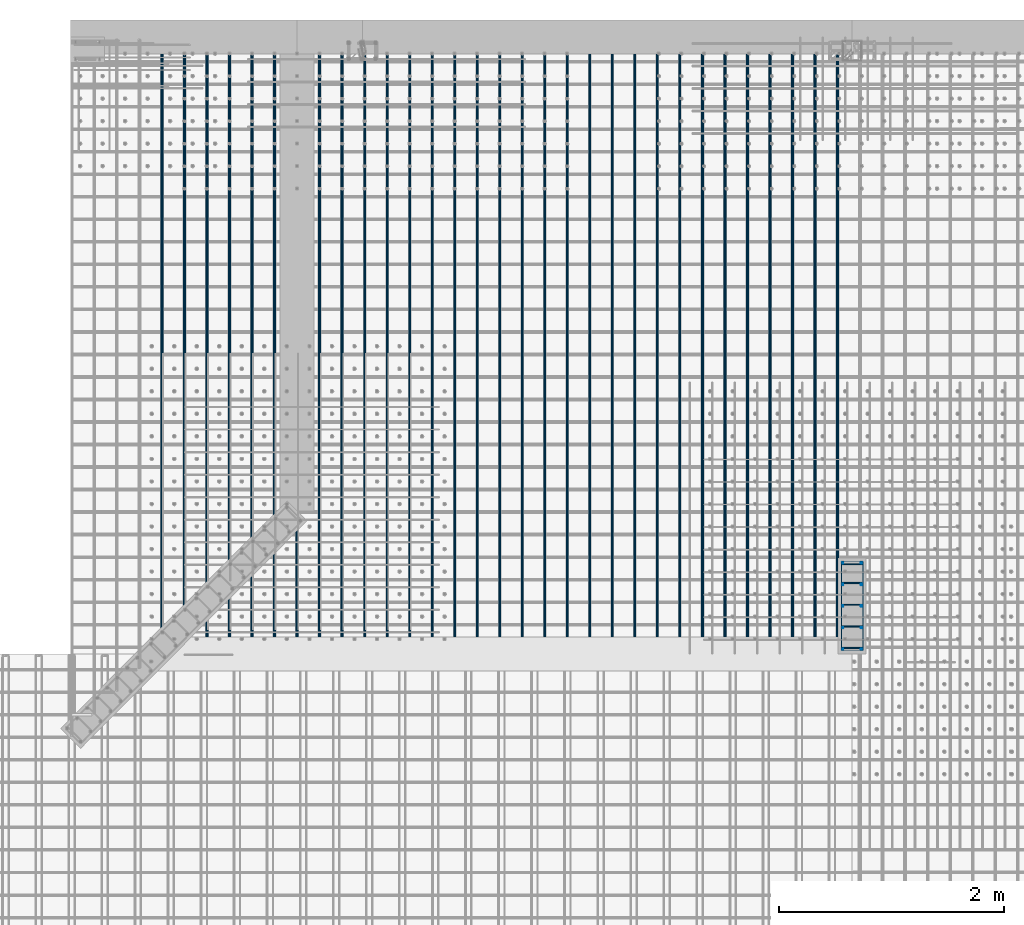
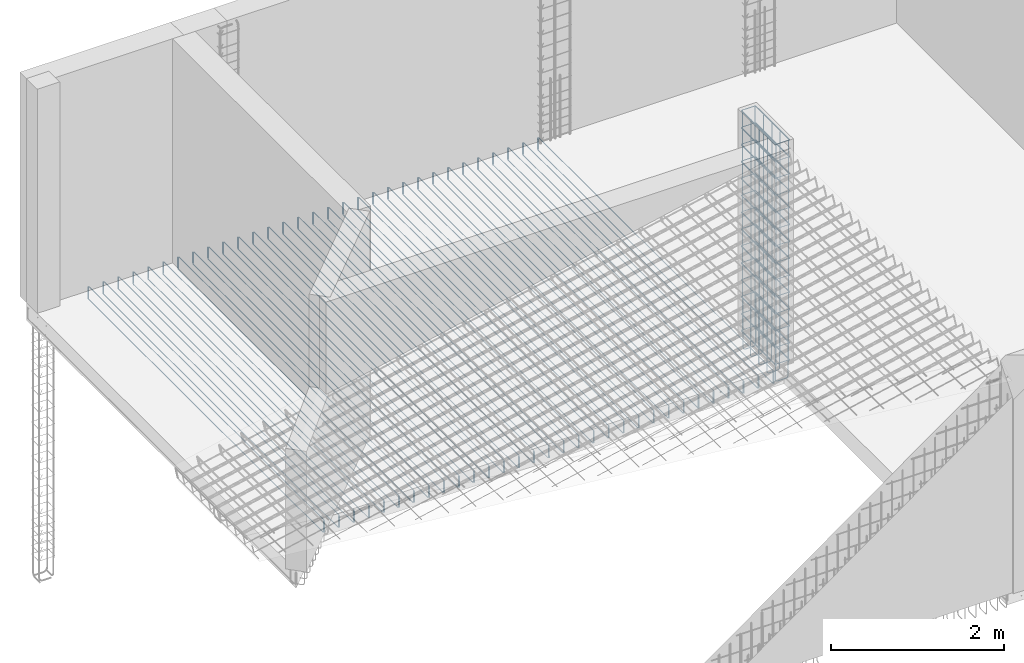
# One storey, part 6 of 17: 5 reinforcing bars.
"""IFC4 building model written with IfcOpenShell, lengths in metres."""

from ifc_helpers import new_model, entity, si_unit, frame, origin_with_axes, place, context, project, spatial, source, transform, mapped, element, save


model = new_model("IFC4")

# Units and contexts
model_context = context("Model", 3, precision=1e-05, world=origin_with_axes())
ifc_project = project(units=[si_unit("LENGTHUNIT", "METRE"), si_unit("AREAUNIT", "SQUARE_METRE"), si_unit("VOLUMEUNIT", "CUBIC_METRE"), si_unit("MASSUNIT", "GRAM", prefix="KILO"), si_unit("TIMEUNIT", "SECOND"), si_unit("PLANEANGLEUNIT", "RADIAN"), si_unit("SOLIDANGLEUNIT", "STERADIAN"), si_unit("THERMODYNAMICTEMPERATUREUNIT", "DEGREE_CELSIUS")], contexts=[model_context])

# Site, building, storey
placement_1 = place(None, origin_with_axes())
site = spatial("IfcSite", under=ifc_project, at=placement_1, Name="Italia", CompositionType="ELEMENT")
building = spatial("IfcBuilding", under=site, at=placement_1, Name="Abitazione", CompositionType="ELEMENT")
storey_placement = place(None, frame((0.0, 0.0, 3.569999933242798), z_axis=(0.0, 0.0, 1.0), x_axis=(1.0, 0.0, 0.0)))
storey = spatial("IfcBuildingStorey", under=building, at=storey_placement, Name="Storey 1", CompositionType="ELEMENT", Elevation=3.569999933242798)

# Reinforcing bars
shared_shape_1 = source(origin_with_axes(), model_context, "Body", "AdvancedSweptSolid", [
    entity("IfcSweptDiskSolid", entity("IfcIndexedPolyCurve", entity("IfcCartesianPointList3D", [[8.046, 6.749, 3.57], [8.046, 6.749, 6.705]]), [entity("IfcLineIndex", [1, 2])], False), 0.006),
])
placement_2 = place(placement_1, origin_with_axes())
reinforcing_bar_1_placement = place(placement_2, origin_with_axes())
element("IfcReinforcingBar", 1, at=reinforcing_bar_1_placement, inside=storey, BarLength=3.135, CrossSectionArea=0.0001131, NominalDiameter=0.012, context=model_context, shape_type="MappedRepresentation", body=[
    mapped(shared_shape_1, transform((0.0, -0.576, 0.0), x_axis=(1.0, 0.0, 0.0), y_axis=(0.0, 1.0, 0.0), z_axis=(0.0, 0.0, 1.0), scale=1.0)),
    mapped(shared_shape_1, transform((0.167999, -0.384, 0.0), x_axis=(1.0, 0.0, 0.0), y_axis=(0.0, 1.0, 0.0), z_axis=(0.0, 0.0, 1.0), scale=1.0)),
    mapped(shared_shape_1, transform((0.0, -0.768001, 0.0), x_axis=(1.0, 0.0, 0.0), y_axis=(0.0, 1.0, 0.0), z_axis=(0.0, 0.0, 1.0), scale=1.0)),
    mapped(shared_shape_1, transform((0.167999, -0.576, 0.0), x_axis=(1.0, 0.0, 0.0), y_axis=(0.0, 1.0, 0.0), z_axis=(0.0, 0.0, 1.0), scale=1.0)),
    mapped(shared_shape_1, transform((0.0, 0.0, 0.0), x_axis=(1.0, 0.0, 0.0), y_axis=(0.0, 1.0, 0.0), z_axis=(0.0, 0.0, 1.0), scale=1.0)),
    mapped(shared_shape_1, transform((0.167999, -0.768001, 0.0), x_axis=(1.0, 0.0, 0.0), y_axis=(0.0, 1.0, 0.0), z_axis=(0.0, 0.0, 1.0), scale=1.0)),
    mapped(shared_shape_1, transform((0.0, -0.192, 0.0), x_axis=(1.0, 0.0, 0.0), y_axis=(0.0, 1.0, 0.0), z_axis=(0.0, 0.0, 1.0), scale=1.0)),
    mapped(shared_shape_1, transform((0.167999, 0.0, 0.0), x_axis=(1.0, 0.0, 0.0), y_axis=(0.0, 1.0, 0.0), z_axis=(0.0, 0.0, 1.0), scale=1.0)),
    mapped(shared_shape_1, transform((0.0, -0.384, 0.0), x_axis=(1.0, 0.0, 0.0), y_axis=(0.0, 1.0, 0.0), z_axis=(0.0, 0.0, 1.0), scale=1.0)),
    mapped(shared_shape_1, transform((0.167999, -0.192, 0.0), x_axis=(1.0, 0.0, 0.0), y_axis=(0.0, 1.0, 0.0), z_axis=(0.0, 0.0, 1.0), scale=1.0)),
])
shared_shape_2 = source(origin_with_axes(), model_context, "Body", "AdvancedSweptSolid", [
    entity("IfcSweptDiskSolid", entity("IfcIndexedPolyCurve", entity("IfcCartesianPointList3D", [[8.046, 6.737, 4.07], [8.046, 6.737, 3.375], [8.04828, 6.737, 3.36352], [8.05479, 6.737, 3.35379], [8.06452, 6.737, 3.34728], [8.076, 6.737, 3.345], [8.146, 6.737, 3.345]]), [entity("IfcLineIndex", [1, 2]), entity("IfcLineIndex", [2, 3]), entity("IfcLineIndex", [3, 4]), entity("IfcLineIndex", [4, 5]), entity("IfcLineIndex", [5, 6]), entity("IfcLineIndex", [6, 7])], False), 0.006),
])
reinforcing_bar_2_placement = place(placement_2, origin_with_axes())
element("IfcReinforcingBar", 2, at=reinforcing_bar_2_placement, inside=storey, BarLength=0.811821, CrossSectionArea=0.0001131, NominalDiameter=0.012, context=model_context, shape_type="MappedRepresentation", body=[
    mapped(shared_shape_2, transform((0.0, -0.552, 0.0), x_axis=(1.0, 0.0, 0.0), y_axis=(0.0, 1.0, 0.0), z_axis=(0.0, 0.0, 1.0), scale=1.0)),
    mapped(shared_shape_2, transform((16.26, 13.114, 0.0), x_axis=(-1.0, 0.0, 0.0), y_axis=(0.0, -1.0, 0.0), z_axis=(0.0, 0.0, 1.0), scale=1.0)),
    mapped(shared_shape_2, transform((0.0, -0.744, 0.0), x_axis=(1.0, 0.0, 0.0), y_axis=(0.0, 1.0, 0.0), z_axis=(0.0, 0.0, 1.0), scale=1.0)),
    mapped(shared_shape_2, transform((16.26, 12.922, 0.0), x_axis=(-1.0, 0.0, 0.0), y_axis=(0.0, -1.0, 0.0), z_axis=(0.0, 0.0, 1.0), scale=1.0)),
    mapped(shared_shape_2, transform((0.0, 0.0, 0.0), x_axis=(1.0, 0.0, 0.0), y_axis=(0.0, 1.0, 0.0), z_axis=(0.0, 0.0, 1.0), scale=1.0)),
    mapped(shared_shape_2, transform((16.26, 12.73, 0.0), x_axis=(-1.0, 0.0, 0.0), y_axis=(0.0, -1.0, 0.0), z_axis=(0.0, 0.0, 1.0), scale=1.0)),
    mapped(shared_shape_2, transform((0.0, -0.168, 0.0), x_axis=(1.0, 0.0, 0.0), y_axis=(0.0, 1.0, 0.0), z_axis=(0.0, 0.0, 1.0), scale=1.0)),
    mapped(shared_shape_2, transform((16.26, 13.474, 0.0), x_axis=(-1.0, 0.0, 0.0), y_axis=(0.0, -1.0, 0.0), z_axis=(0.0, 0.0, 1.0), scale=1.0)),
    mapped(shared_shape_2, transform((0.0, -0.36, 0.0), x_axis=(1.0, 0.0, 0.0), y_axis=(0.0, 1.0, 0.0), z_axis=(0.0, 0.0, 1.0), scale=1.0)),
    mapped(shared_shape_2, transform((16.26, 13.306, 0.0), x_axis=(-1.0, 0.0, 0.0), y_axis=(0.0, -1.0, 0.0), z_axis=(0.0, 0.0, 1.0), scale=1.0)),
])
shared_shape_3 = source(origin_with_axes(), model_context, "Body", "AdvancedSweptSolid", [
    entity("IfcSweptDiskSolid", entity("IfcIndexedPolyCurve", entity("IfcCartesianPointList3D", [[8.225, 6.76, 3.6], [8.225, 5.97, 3.6]]), [entity("IfcLineIndex", [1, 2])], False), 0.005),
])
reinforcing_bar_3_placement = place(placement_2, origin_with_axes())
element("IfcReinforcingBar", 3, at=reinforcing_bar_3_placement, inside=storey, BarLength=0.79, CrossSectionArea=7.854e-05, NominalDiameter=0.01, context=model_context, shape_type="MappedRepresentation", body=[
    mapped(shared_shape_3, transform((0.0, 0.0, 0.238461), x_axis=(1.0, 0.0, 0.0), y_axis=(0.0, 1.0, 0.0), z_axis=(0.0, 0.0, 1.0), scale=1.0)),
    mapped(shared_shape_3, transform((0.0, 0.0, 0.953846), x_axis=(1.0, 0.0, 0.0), y_axis=(0.0, 1.0, 0.0), z_axis=(0.0, 0.0, 1.0), scale=1.0)),
    mapped(shared_shape_3, transform((0.0, 0.0, 1.43077), x_axis=(1.0, 0.0, 0.0), y_axis=(0.0, 1.0, 0.0), z_axis=(0.0, 0.0, 1.0), scale=1.0)),
    mapped(shared_shape_3, transform((0.0, 0.0, 0.0), x_axis=(1.0, 0.0, 0.0), y_axis=(0.0, 1.0, 0.0), z_axis=(0.0, 0.0, 1.0), scale=1.0)),
    mapped(shared_shape_3, transform((16.26, 12.73, 0.476923), x_axis=(-1.0, 0.0, 0.0), y_axis=(0.0, -1.0, 0.0), z_axis=(0.0, 0.0, 1.0), scale=1.0)),
    mapped(shared_shape_3, transform((16.26, 12.73, 0.0), x_axis=(-1.0, 0.0, 0.0), y_axis=(0.0, -1.0, 0.0), z_axis=(0.0, 0.0, 1.0), scale=1.0)),
    mapped(shared_shape_3, transform((0.0, 0.0, 0.476923), x_axis=(1.0, 0.0, 0.0), y_axis=(0.0, 1.0, 0.0), z_axis=(0.0, 0.0, 1.0), scale=1.0)),
    mapped(shared_shape_3, transform((16.26, 12.73, 0.715384), x_axis=(-1.0, 0.0, 0.0), y_axis=(0.0, -1.0, 0.0), z_axis=(0.0, 0.0, 1.0), scale=1.0)),
    mapped(shared_shape_3, transform((0.0, 0.0, 1.19231), x_axis=(1.0, 0.0, 0.0), y_axis=(0.0, 1.0, 0.0), z_axis=(0.0, 0.0, 1.0), scale=1.0)),
    mapped(shared_shape_3, transform((0.0, 0.0, 1.66923), x_axis=(1.0, 0.0, 0.0), y_axis=(0.0, 1.0, 0.0), z_axis=(0.0, 0.0, 1.0), scale=1.0)),
    mapped(shared_shape_3, transform((16.26, 12.73, 0.238461), x_axis=(-1.0, 0.0, 0.0), y_axis=(0.0, -1.0, 0.0), z_axis=(0.0, 0.0, 1.0), scale=1.0)),
    mapped(shared_shape_3, transform((0.0, 0.0, 0.715384), x_axis=(1.0, 0.0, 0.0), y_axis=(0.0, 1.0, 0.0), z_axis=(0.0, 0.0, 1.0), scale=1.0)),
    mapped(shared_shape_3, transform((16.26, 12.73, 0.953846), x_axis=(-1.0, 0.0, 0.0), y_axis=(0.0, -1.0, 0.0), z_axis=(0.0, 0.0, 1.0), scale=1.0)),
    mapped(shared_shape_3, transform((16.26, 12.73, 1.19231), x_axis=(-1.0, 0.0, 0.0), y_axis=(0.0, -1.0, 0.0), z_axis=(0.0, 0.0, 1.0), scale=1.0)),
    mapped(shared_shape_3, transform((16.26, 12.73, 1.43077), x_axis=(-1.0, 0.0, 0.0), y_axis=(0.0, -1.0, 0.0), z_axis=(0.0, 0.0, 1.0), scale=1.0)),
    mapped(shared_shape_3, transform((16.26, 12.73, 1.66923), x_axis=(-1.0, 0.0, 0.0), y_axis=(0.0, -1.0, 0.0), z_axis=(0.0, 0.0, 1.0), scale=1.0)),
    mapped(shared_shape_3, transform((16.26, 12.73, 1.90769), x_axis=(-1.0, 0.0, 0.0), y_axis=(0.0, -1.0, 0.0), z_axis=(0.0, 0.0, 1.0), scale=1.0)),
    mapped(shared_shape_3, transform((0.0, 0.0, 2.86154), x_axis=(1.0, 0.0, 0.0), y_axis=(0.0, 1.0, 0.0), z_axis=(0.0, 0.0, 1.0), scale=1.0)),
    mapped(shared_shape_3, transform((0.0, 0.0, 1.90769), x_axis=(1.0, 0.0, 0.0), y_axis=(0.0, 1.0, 0.0), z_axis=(0.0, 0.0, 1.0), scale=1.0)),
    mapped(shared_shape_3, transform((16.26, 12.73, 2.14615), x_axis=(-1.0, 0.0, 0.0), y_axis=(0.0, -1.0, 0.0), z_axis=(0.0, 0.0, 1.0), scale=1.0)),
    mapped(shared_shape_3, transform((0.0, 0.0, 2.62308), x_axis=(1.0, 0.0, 0.0), y_axis=(0.0, 1.0, 0.0), z_axis=(0.0, 0.0, 1.0), scale=1.0)),
    mapped(shared_shape_3, transform((0.0, 0.0, 2.38462), x_axis=(1.0, 0.0, 0.0), y_axis=(0.0, 1.0, 0.0), z_axis=(0.0, 0.0, 1.0), scale=1.0)),
    mapped(shared_shape_3, transform((0.0, 0.0, 3.1), x_axis=(1.0, 0.0, 0.0), y_axis=(0.0, 1.0, 0.0), z_axis=(0.0, 0.0, 1.0), scale=1.0)),
    mapped(shared_shape_3, transform((0.0, 0.0, 2.14615), x_axis=(1.0, 0.0, 0.0), y_axis=(0.0, 1.0, 0.0), z_axis=(0.0, 0.0, 1.0), scale=1.0)),
    mapped(shared_shape_3, transform((16.26, 12.73, 2.62308), x_axis=(-1.0, 0.0, 0.0), y_axis=(0.0, -1.0, 0.0), z_axis=(0.0, 0.0, 1.0), scale=1.0)),
    mapped(shared_shape_3, transform((16.26, 12.73, 2.38462), x_axis=(-1.0, 0.0, 0.0), y_axis=(0.0, -1.0, 0.0), z_axis=(0.0, 0.0, 1.0), scale=1.0)),
    mapped(shared_shape_3, transform((16.26, 12.73, 2.86154), x_axis=(-1.0, 0.0, 0.0), y_axis=(0.0, -1.0, 0.0), z_axis=(0.0, 0.0, 1.0), scale=1.0)),
    mapped(shared_shape_3, transform((16.26, 12.73, 3.1), x_axis=(-1.0, 0.0, 0.0), y_axis=(0.0, -1.0, 0.0), z_axis=(0.0, 0.0, 1.0), scale=1.0)),
])
shared_shape_4 = source(origin_with_axes(), model_context, "Body", "AdvancedSweptSolid", [
    entity("IfcSweptDiskSolid", entity("IfcIndexedPolyCurve", entity("IfcCartesianPointList3D", [[8.035, 6.27, 3.61], [8.035, 6.75, 3.61], [8.03576, 6.75383, 3.61], [8.03793, 6.75707, 3.61], [8.04117, 6.75924, 3.61], [8.045, 6.76, 3.61], [8.215, 6.76, 3.61], [8.21883, 6.75924, 3.61], [8.22207, 6.75707, 3.61], [8.22424, 6.75383, 3.61], [8.225, 6.75, 3.61], [8.225, 6.27, 3.61]]), [entity("IfcLineIndex", [1, 2]), entity("IfcLineIndex", [2, 3]), entity("IfcLineIndex", [3, 4]), entity("IfcLineIndex", [4, 5]), entity("IfcLineIndex", [5, 6]), entity("IfcLineIndex", [6, 7]), entity("IfcLineIndex", [7, 8]), entity("IfcLineIndex", [8, 9]), entity("IfcLineIndex", [9, 10]), entity("IfcLineIndex", [10, 11]), entity("IfcLineIndex", [11, 12])], False), 0.005),
])
reinforcing_bar_4_placement = place(placement_2, origin_with_axes())
element("IfcReinforcingBar", 4, at=reinforcing_bar_4_placement, inside=storey, BarLength=1.16122, CrossSectionArea=7.854e-05, NominalDiameter=0.01, context=model_context, shape_type="MappedRepresentation", body=[
    mapped(shared_shape_4, transform((0.0, 0.0, 0.238461), x_axis=(1.0, 0.0, 0.0), y_axis=(0.0, 1.0, 0.0), z_axis=(0.0, 0.0, 1.0), scale=1.0)),
    mapped(shared_shape_4, transform((0.0, 0.0, 0.953846), x_axis=(1.0, 0.0, 0.0), y_axis=(0.0, 1.0, 0.0), z_axis=(0.0, 0.0, 1.0), scale=1.0)),
    mapped(shared_shape_4, transform((0.0, 0.0, 1.43077), x_axis=(1.0, 0.0, 0.0), y_axis=(0.0, 1.0, 0.0), z_axis=(0.0, 0.0, 1.0), scale=1.0)),
    mapped(shared_shape_4, transform((0.0, 0.0, 0.0), x_axis=(1.0, 0.0, 0.0), y_axis=(0.0, 1.0, 0.0), z_axis=(0.0, 0.0, 1.0), scale=1.0)),
    mapped(shared_shape_4, transform((16.26, 12.73, 0.476923), x_axis=(-1.0, 0.0, 0.0), y_axis=(0.0, -1.0, 0.0), z_axis=(0.0, 0.0, 1.0), scale=1.0)),
    mapped(shared_shape_4, transform((16.26, 12.73, 0.0), x_axis=(-1.0, 0.0, 0.0), y_axis=(0.0, -1.0, 0.0), z_axis=(0.0, 0.0, 1.0), scale=1.0)),
    mapped(shared_shape_4, transform((0.0, 0.0, 0.476923), x_axis=(1.0, 0.0, 0.0), y_axis=(0.0, 1.0, 0.0), z_axis=(0.0, 0.0, 1.0), scale=1.0)),
    mapped(shared_shape_4, transform((16.26, 12.73, 0.715385), x_axis=(-1.0, 0.0, 0.0), y_axis=(0.0, -1.0, 0.0), z_axis=(0.0, 0.0, 1.0), scale=1.0)),
    mapped(shared_shape_4, transform((0.0, 0.0, 1.19231), x_axis=(1.0, 0.0, 0.0), y_axis=(0.0, 1.0, 0.0), z_axis=(0.0, 0.0, 1.0), scale=1.0)),
    mapped(shared_shape_4, transform((0.0, 0.0, 1.66923), x_axis=(1.0, 0.0, 0.0), y_axis=(0.0, 1.0, 0.0), z_axis=(0.0, 0.0, 1.0), scale=1.0)),
    mapped(shared_shape_4, transform((16.26, 12.73, 0.238461), x_axis=(-1.0, 0.0, 0.0), y_axis=(0.0, -1.0, 0.0), z_axis=(0.0, 0.0, 1.0), scale=1.0)),
    mapped(shared_shape_4, transform((0.0, 0.0, 0.715385), x_axis=(1.0, 0.0, 0.0), y_axis=(0.0, 1.0, 0.0), z_axis=(0.0, 0.0, 1.0), scale=1.0)),
    mapped(shared_shape_4, transform((16.26, 12.73, 0.953846), x_axis=(-1.0, 0.0, 0.0), y_axis=(0.0, -1.0, 0.0), z_axis=(0.0, 0.0, 1.0), scale=1.0)),
    mapped(shared_shape_4, transform((16.26, 12.73, 1.19231), x_axis=(-1.0, 0.0, 0.0), y_axis=(0.0, -1.0, 0.0), z_axis=(0.0, 0.0, 1.0), scale=1.0)),
    mapped(shared_shape_4, transform((16.26, 12.73, 1.43077), x_axis=(-1.0, 0.0, 0.0), y_axis=(0.0, -1.0, 0.0), z_axis=(0.0, 0.0, 1.0), scale=1.0)),
    mapped(shared_shape_4, transform((16.26, 12.73, 1.66923), x_axis=(-1.0, 0.0, 0.0), y_axis=(0.0, -1.0, 0.0), z_axis=(0.0, 0.0, 1.0), scale=1.0)),
    mapped(shared_shape_4, transform((16.26, 12.73, 1.90769), x_axis=(-1.0, 0.0, 0.0), y_axis=(0.0, -1.0, 0.0), z_axis=(0.0, 0.0, 1.0), scale=1.0)),
    mapped(shared_shape_4, transform((0.0, 0.0, 2.86154), x_axis=(1.0, 0.0, 0.0), y_axis=(0.0, 1.0, 0.0), z_axis=(0.0, 0.0, 1.0), scale=1.0)),
    mapped(shared_shape_4, transform((0.0, 0.0, 1.90769), x_axis=(1.0, 0.0, 0.0), y_axis=(0.0, 1.0, 0.0), z_axis=(0.0, 0.0, 1.0), scale=1.0)),
    mapped(shared_shape_4, transform((16.26, 12.73, 2.14615), x_axis=(-1.0, 0.0, 0.0), y_axis=(0.0, -1.0, 0.0), z_axis=(0.0, 0.0, 1.0), scale=1.0)),
    mapped(shared_shape_4, transform((0.0, 0.0, 2.62308), x_axis=(1.0, 0.0, 0.0), y_axis=(0.0, 1.0, 0.0), z_axis=(0.0, 0.0, 1.0), scale=1.0)),
    mapped(shared_shape_4, transform((0.0, 0.0, 2.38462), x_axis=(1.0, 0.0, 0.0), y_axis=(0.0, 1.0, 0.0), z_axis=(0.0, 0.0, 1.0), scale=1.0)),
    mapped(shared_shape_4, transform((0.0, 0.0, 3.1), x_axis=(1.0, 0.0, 0.0), y_axis=(0.0, 1.0, 0.0), z_axis=(0.0, 0.0, 1.0), scale=1.0)),
    mapped(shared_shape_4, transform((0.0, 0.0, 2.14615), x_axis=(1.0, 0.0, 0.0), y_axis=(0.0, 1.0, 0.0), z_axis=(0.0, 0.0, 1.0), scale=1.0)),
    mapped(shared_shape_4, transform((16.26, 12.73, 2.62308), x_axis=(-1.0, 0.0, 0.0), y_axis=(0.0, -1.0, 0.0), z_axis=(0.0, 0.0, 1.0), scale=1.0)),
    mapped(shared_shape_4, transform((16.26, 12.73, 2.38462), x_axis=(-1.0, 0.0, 0.0), y_axis=(0.0, -1.0, 0.0), z_axis=(0.0, 0.0, 1.0), scale=1.0)),
    mapped(shared_shape_4, transform((16.26, 12.73, 2.86154), x_axis=(-1.0, 0.0, 0.0), y_axis=(0.0, -1.0, 0.0), z_axis=(0.0, 0.0, 1.0), scale=1.0)),
    mapped(shared_shape_4, transform((16.26, 12.73, 3.1), x_axis=(-1.0, 0.0, 0.0), y_axis=(0.0, -1.0, 0.0), z_axis=(0.0, 0.0, 1.0), scale=1.0)),
])
shared_shape_5 = source(origin_with_axes(), model_context, "Body", "AdvancedSweptSolid", [
    entity("IfcSweptDiskSolid", entity("IfcIndexedPolyCurve", entity("IfcCartesianPointList3D", [[2.006, 5.952, 3.362], [2.006, 5.952, 3.518], [2.006, 5.95276, 3.52183], [2.006, 5.95493, 3.52507], [2.006, 5.95817, 3.52724], [2.006, 5.962, 3.528], [2.006, 11.386, 3.528], [2.006, 11.3898, 3.52724], [2.006, 11.3931, 3.52507], [2.006, 11.3952, 3.52183], [2.006, 11.396, 3.518], [2.006, 11.396, 3.362]]), [entity("IfcLineIndex", [1, 2]), entity("IfcLineIndex", [2, 3]), entity("IfcLineIndex", [3, 4]), entity("IfcLineIndex", [4, 5]), entity("IfcLineIndex", [5, 6]), entity("IfcLineIndex", [6, 7]), entity("IfcLineIndex", [7, 8]), entity("IfcLineIndex", [8, 9]), entity("IfcLineIndex", [9, 10]), entity("IfcLineIndex", [10, 11]), entity("IfcLineIndex", [11, 12])], False), 0.006),
])
reinforcing_bar_5_placement = place(placement_2, origin_with_axes())
element("IfcReinforcingBar", 5, at=reinforcing_bar_5_placement, inside=storey, BarLength=5.76721, CrossSectionArea=0.0001131, NominalDiameter=0.012, context=model_context, shape_type="MappedRepresentation", body=[
    mapped(shared_shape_5, transform((6.4, 0.0, 6.89), x_axis=(-1.0, 0.0, 0.0), y_axis=(0.0, 1.0, 0.0), z_axis=(0.0, 0.0, -1.0), scale=1.0)),
    mapped(shared_shape_5, transform((6.2, 0.0, 6.89), x_axis=(-1.0, 0.0, 0.0), y_axis=(0.0, 1.0, 0.0), z_axis=(0.0, 0.0, -1.0), scale=1.0)),
    mapped(shared_shape_5, transform((6.6, 0.0, 6.89), x_axis=(-1.0, 0.0, 0.0), y_axis=(0.0, 1.0, 0.0), z_axis=(0.0, 0.0, -1.0), scale=1.0)),
    mapped(shared_shape_5, transform((4.0, 0.0, 6.89), x_axis=(-1.0, 0.0, 0.0), y_axis=(0.0, 1.0, 0.0), z_axis=(0.0, 0.0, -1.0), scale=1.0)),
    mapped(shared_shape_5, transform((6.8, 0.0, 6.89), x_axis=(-1.0, 0.0, 0.0), y_axis=(0.0, 1.0, 0.0), z_axis=(0.0, 0.0, -1.0), scale=1.0)),
    mapped(shared_shape_5, transform((4.2, 0.0, 6.89), x_axis=(-1.0, 0.0, 0.0), y_axis=(0.0, 1.0, 0.0), z_axis=(0.0, 0.0, -1.0), scale=1.0)),
    mapped(shared_shape_5, transform((4.8, 0.0, 6.89), x_axis=(-1.0, 0.0, 0.0), y_axis=(0.0, 1.0, 0.0), z_axis=(0.0, 0.0, -1.0), scale=1.0)),
    mapped(shared_shape_5, transform((6.0, 0.0, 6.89), x_axis=(-1.0, 0.0, 0.0), y_axis=(0.0, 1.0, 0.0), z_axis=(0.0, 0.0, -1.0), scale=1.0)),
    mapped(shared_shape_5, transform((5.0, 0.0, 6.89), x_axis=(-1.0, 0.0, 0.0), y_axis=(0.0, 1.0, 0.0), z_axis=(0.0, 0.0, -1.0), scale=1.0)),
    mapped(shared_shape_5, transform((5.4, 0.0, 6.89), x_axis=(-1.0, 0.0, 0.0), y_axis=(0.0, 1.0, 0.0), z_axis=(0.0, 0.0, -1.0), scale=1.0)),
    mapped(shared_shape_5, transform((5.2, 0.0, 6.89), x_axis=(-1.0, 0.0, 0.0), y_axis=(0.0, 1.0, 0.0), z_axis=(0.0, 0.0, -1.0), scale=1.0)),
    mapped(shared_shape_5, transform((5.6, 0.0, 6.89), x_axis=(-1.0, 0.0, 0.0), y_axis=(0.0, 1.0, 0.0), z_axis=(0.0, 0.0, -1.0), scale=1.0)),
    mapped(shared_shape_5, transform((4.6, 0.0, 6.89), x_axis=(-1.0, 0.0, 0.0), y_axis=(0.0, 1.0, 0.0), z_axis=(0.0, 0.0, -1.0), scale=1.0)),
    mapped(shared_shape_5, transform((5.8, 0.0, 6.89), x_axis=(-1.0, 0.0, 0.0), y_axis=(0.0, 1.0, 0.0), z_axis=(0.0, 0.0, -1.0), scale=1.0)),
    mapped(shared_shape_5, transform((9.4, 0.0, 6.89), x_axis=(-1.0, 0.0, 0.0), y_axis=(0.0, 1.0, 0.0), z_axis=(0.0, 0.0, -1.0), scale=1.0)),
    mapped(shared_shape_5, transform((9.8, 0.0, 6.89), x_axis=(-1.0, 0.0, 0.0), y_axis=(0.0, 1.0, 0.0), z_axis=(0.0, 0.0, -1.0), scale=1.0)),
    mapped(shared_shape_5, transform((9.6, 0.0, 6.89), x_axis=(-1.0, 0.0, 0.0), y_axis=(0.0, 1.0, 0.0), z_axis=(0.0, 0.0, -1.0), scale=1.0)),
    mapped(shared_shape_5, transform((7.0, 0.0, 6.89), x_axis=(-1.0, 0.0, 0.0), y_axis=(0.0, 1.0, 0.0), z_axis=(0.0, 0.0, -1.0), scale=1.0)),
    mapped(shared_shape_5, transform((4.4, 0.0, 6.89), x_axis=(-1.0, 0.0, 0.0), y_axis=(0.0, 1.0, 0.0), z_axis=(0.0, 0.0, -1.0), scale=1.0)),
    mapped(shared_shape_5, transform((7.2, 0.0, 6.89), x_axis=(-1.0, 0.0, 0.0), y_axis=(0.0, 1.0, 0.0), z_axis=(0.0, 0.0, -1.0), scale=1.0)),
    mapped(shared_shape_5, transform((9.2, 0.0, 6.89), x_axis=(-1.0, 0.0, 0.0), y_axis=(0.0, 1.0, 0.0), z_axis=(0.0, 0.0, -1.0), scale=1.0)),
    mapped(shared_shape_5, transform((8.2, 0.0, 6.89), x_axis=(-1.0, 0.0, 0.0), y_axis=(0.0, 1.0, 0.0), z_axis=(0.0, 0.0, -1.0), scale=1.0)),
    mapped(shared_shape_5, transform((8.0, 0.0, 6.89), x_axis=(-1.0, 0.0, 0.0), y_axis=(0.0, 1.0, 0.0), z_axis=(0.0, 0.0, -1.0), scale=1.0)),
    mapped(shared_shape_5, transform((8.4, 0.0, 6.89), x_axis=(-1.0, 0.0, 0.0), y_axis=(0.0, 1.0, 0.0), z_axis=(0.0, 0.0, -1.0), scale=1.0)),
    mapped(shared_shape_5, transform((8.8, 0.0, 6.89), x_axis=(-1.0, 0.0, 0.0), y_axis=(0.0, 1.0, 0.0), z_axis=(0.0, 0.0, -1.0), scale=1.0)),
    mapped(shared_shape_5, transform((8.6, 0.0, 6.89), x_axis=(-1.0, 0.0, 0.0), y_axis=(0.0, 1.0, 0.0), z_axis=(0.0, 0.0, -1.0), scale=1.0)),
    mapped(shared_shape_5, transform((9.0, 0.0, 6.89), x_axis=(-1.0, 0.0, 0.0), y_axis=(0.0, 1.0, 0.0), z_axis=(0.0, 0.0, -1.0), scale=1.0)),
    mapped(shared_shape_5, transform((2.4, 0.0, 0.0), x_axis=(1.0, 0.0, 0.0), y_axis=(0.0, 1.0, 0.0), z_axis=(0.0, 0.0, 1.0), scale=1.0)),
    mapped(shared_shape_5, transform((7.8, 0.0, 6.89), x_axis=(-1.0, 0.0, 0.0), y_axis=(0.0, 1.0, 0.0), z_axis=(0.0, 0.0, -1.0), scale=1.0)),
    mapped(shared_shape_5, transform((2.6, 0.0, 0.0), x_axis=(1.0, 0.0, 0.0), y_axis=(0.0, 1.0, 0.0), z_axis=(0.0, 0.0, 1.0), scale=1.0)),
    mapped(shared_shape_5, transform((0.0, 0.0, 0.0), x_axis=(1.0, 0.0, 0.0), y_axis=(0.0, 1.0, 0.0), z_axis=(0.0, 0.0, 1.0), scale=1.0)),
    mapped(shared_shape_5, transform((10.0, 0.0, 6.89), x_axis=(-1.0, 0.0, 0.0), y_axis=(0.0, 1.0, 0.0), z_axis=(0.0, 0.0, -1.0), scale=1.0)),
    mapped(shared_shape_5, transform((7.4, 0.0, 6.89), x_axis=(-1.0, 0.0, 0.0), y_axis=(0.0, 1.0, 0.0), z_axis=(0.0, 0.0, -1.0), scale=1.0)),
    mapped(shared_shape_5, transform((2.2, 0.0, 0.0), x_axis=(1.0, 0.0, 0.0), y_axis=(0.0, 1.0, 0.0), z_axis=(0.0, 0.0, 1.0), scale=1.0)),
    mapped(shared_shape_5, transform((7.6, 0.0, 6.89), x_axis=(-1.0, 0.0, 0.0), y_axis=(0.0, 1.0, 0.0), z_axis=(0.0, 0.0, -1.0), scale=1.0)),
    mapped(shared_shape_5, transform((1.0, 0.0, 0.0), x_axis=(1.0, 0.0, 0.0), y_axis=(0.0, 1.0, 0.0), z_axis=(0.0, 0.0, 1.0), scale=1.0)),
    mapped(shared_shape_5, transform((1.4, 0.0, 0.0), x_axis=(1.0, 0.0, 0.0), y_axis=(0.0, 1.0, 0.0), z_axis=(0.0, 0.0, 1.0), scale=1.0)),
    mapped(shared_shape_5, transform((1.2, 0.0, 0.0), x_axis=(1.0, 0.0, 0.0), y_axis=(0.0, 1.0, 0.0), z_axis=(0.0, 0.0, 1.0), scale=1.0)),
    mapped(shared_shape_5, transform((1.6, 0.0, 0.0), x_axis=(1.0, 0.0, 0.0), y_axis=(0.0, 1.0, 0.0), z_axis=(0.0, 0.0, 1.0), scale=1.0)),
    mapped(shared_shape_5, transform((2.0, 0.0, 0.0), x_axis=(1.0, 0.0, 0.0), y_axis=(0.0, 1.0, 0.0), z_axis=(0.0, 0.0, 1.0), scale=1.0)),
    mapped(shared_shape_5, transform((1.8, 0.0, 0.0), x_axis=(1.0, 0.0, 0.0), y_axis=(0.0, 1.0, 0.0), z_axis=(0.0, 0.0, 1.0), scale=1.0)),
    mapped(shared_shape_5, transform((0.8, 0.0, 0.0), x_axis=(1.0, 0.0, 0.0), y_axis=(0.0, 1.0, 0.0), z_axis=(0.0, 0.0, 1.0), scale=1.0)),
    mapped(shared_shape_5, transform((2.8, 0.0, 0.0), x_axis=(1.0, 0.0, 0.0), y_axis=(0.0, 1.0, 0.0), z_axis=(0.0, 0.0, 1.0), scale=1.0)),
    mapped(shared_shape_5, transform((5.6, 0.0, 0.0), x_axis=(1.0, 0.0, 0.0), y_axis=(0.0, 1.0, 0.0), z_axis=(0.0, 0.0, 1.0), scale=1.0)),
    mapped(shared_shape_5, transform((3.0, 0.0, 0.0), x_axis=(1.0, 0.0, 0.0), y_axis=(0.0, 1.0, 0.0), z_axis=(0.0, 0.0, 1.0), scale=1.0)),
    mapped(shared_shape_5, transform((0.4, 0.0, 0.0), x_axis=(1.0, 0.0, 0.0), y_axis=(0.0, 1.0, 0.0), z_axis=(0.0, 0.0, 1.0), scale=1.0)),
    mapped(shared_shape_5, transform((0.2, 0.0, 0.0), x_axis=(1.0, 0.0, 0.0), y_axis=(0.0, 1.0, 0.0), z_axis=(0.0, 0.0, 1.0), scale=1.0)),
    mapped(shared_shape_5, transform((0.6, 0.0, 0.0), x_axis=(1.0, 0.0, 0.0), y_axis=(0.0, 1.0, 0.0), z_axis=(0.0, 0.0, 1.0), scale=1.0)),
    mapped(shared_shape_5, transform((4.2, 0.0, 0.0), x_axis=(1.0, 0.0, 0.0), y_axis=(0.0, 1.0, 0.0), z_axis=(0.0, 0.0, 1.0), scale=1.0)),
    mapped(shared_shape_5, transform((5.4, 0.0, 0.0), x_axis=(1.0, 0.0, 0.0), y_axis=(0.0, 1.0, 0.0), z_axis=(0.0, 0.0, 1.0), scale=1.0)),
    mapped(shared_shape_5, transform((4.4, 0.0, 0.0), x_axis=(1.0, 0.0, 0.0), y_axis=(0.0, 1.0, 0.0), z_axis=(0.0, 0.0, 1.0), scale=1.0)),
    mapped(shared_shape_5, transform((4.8, 0.0, 0.0), x_axis=(1.0, 0.0, 0.0), y_axis=(0.0, 1.0, 0.0), z_axis=(0.0, 0.0, 1.0), scale=1.0)),
    mapped(shared_shape_5, transform((4.6, 0.0, 0.0), x_axis=(1.0, 0.0, 0.0), y_axis=(0.0, 1.0, 0.0), z_axis=(0.0, 0.0, 1.0), scale=1.0)),
    mapped(shared_shape_5, transform((5.0, 0.0, 0.0), x_axis=(1.0, 0.0, 0.0), y_axis=(0.0, 1.0, 0.0), z_axis=(0.0, 0.0, 1.0), scale=1.0)),
    mapped(shared_shape_5, transform((4.0, 0.0, 0.0), x_axis=(1.0, 0.0, 0.0), y_axis=(0.0, 1.0, 0.0), z_axis=(0.0, 0.0, 1.0), scale=1.0)),
    mapped(shared_shape_5, transform((5.2, 0.0, 0.0), x_axis=(1.0, 0.0, 0.0), y_axis=(0.0, 1.0, 0.0), z_axis=(0.0, 0.0, 1.0), scale=1.0)),
    mapped(shared_shape_5, transform((5.8, 0.0, 0.0), x_axis=(1.0, 0.0, 0.0), y_axis=(0.0, 1.0, 0.0), z_axis=(0.0, 0.0, 1.0), scale=1.0)),
    mapped(shared_shape_5, transform((3.2, 0.0, 0.0), x_axis=(1.0, 0.0, 0.0), y_axis=(0.0, 1.0, 0.0), z_axis=(0.0, 0.0, 1.0), scale=1.0)),
    mapped(shared_shape_5, transform((6.0, 0.0, 0.0), x_axis=(1.0, 0.0, 0.0), y_axis=(0.0, 1.0, 0.0), z_axis=(0.0, 0.0, 1.0), scale=1.0)),
    mapped(shared_shape_5, transform((3.4, 0.0, 0.0), x_axis=(1.0, 0.0, 0.0), y_axis=(0.0, 1.0, 0.0), z_axis=(0.0, 0.0, 1.0), scale=1.0)),
    mapped(shared_shape_5, transform((3.8, 0.0, 0.0), x_axis=(1.0, 0.0, 0.0), y_axis=(0.0, 1.0, 0.0), z_axis=(0.0, 0.0, 1.0), scale=1.0)),
    mapped(shared_shape_5, transform((3.6, 0.0, 0.0), x_axis=(1.0, 0.0, 0.0), y_axis=(0.0, 1.0, 0.0), z_axis=(0.0, 0.0, 1.0), scale=1.0)),
])

save(model, "model.ifc")
